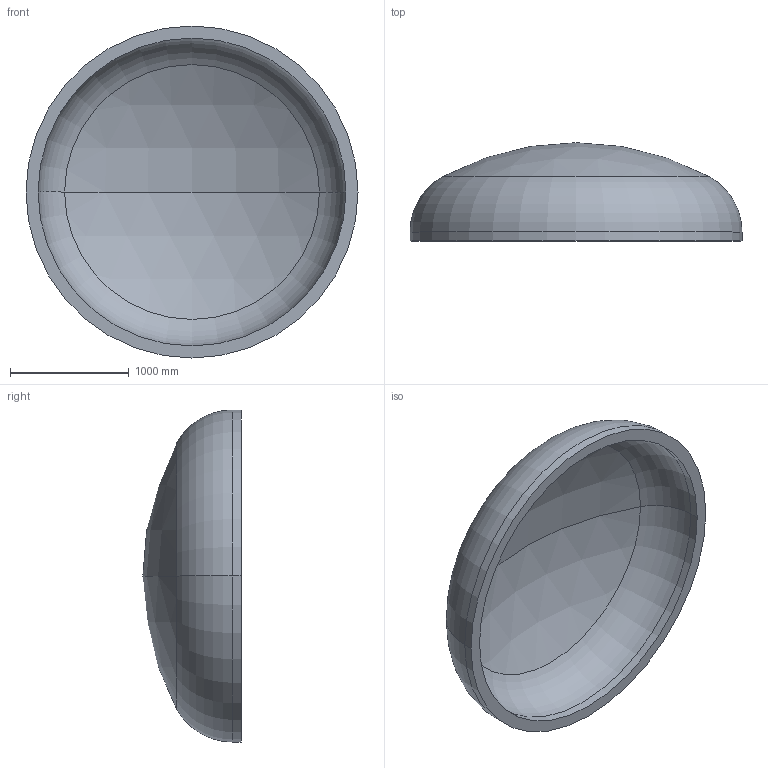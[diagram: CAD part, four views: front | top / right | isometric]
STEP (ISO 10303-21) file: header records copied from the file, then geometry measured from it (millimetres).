
FILE_DESCRIPTION (( 'STEP AP203' ), '1' );
FILE_NAME ('DIN 28013 Korbbogenform_-_Boden DIN 28013 - 2800 x 75 - I - s=102.step', '2016-07-01T17:18:30', ( '' ), ( '' ), 'SwSTEP 2.0', 'SolidWorks 2013', '' );
FILE_SCHEMA (( 'CONFIG_CONTROL_DESIGN' ));
Length unit declared in the file: millimetre
Products named in the file (1): DIN 28013 Korbbogenform_-_Boden DIN 28013 - 2800 x 75 - I - s=102
Bounding box: 2800 x 828.71 x 2800 mm (x, y, z)
Volume: 894019119.5 mm3; surface area: 18416124.9 mm2
Topology: 1 solids, 1 shells, 13 faces, 24 edges, 14 vertices
Faces by surface type: torus 4, cylinder 4, sphere 4, plane 1
Entity records: 407 total; most frequent: DIRECTION 72, CARTESIAN_POINT 52, ORIENTED_EDGE 48, AXIS2_PLACEMENT_3D 34, EDGE_CURVE 24, CIRCLE 20, VERTEX_POINT 14, EDGE_LOOP 14
